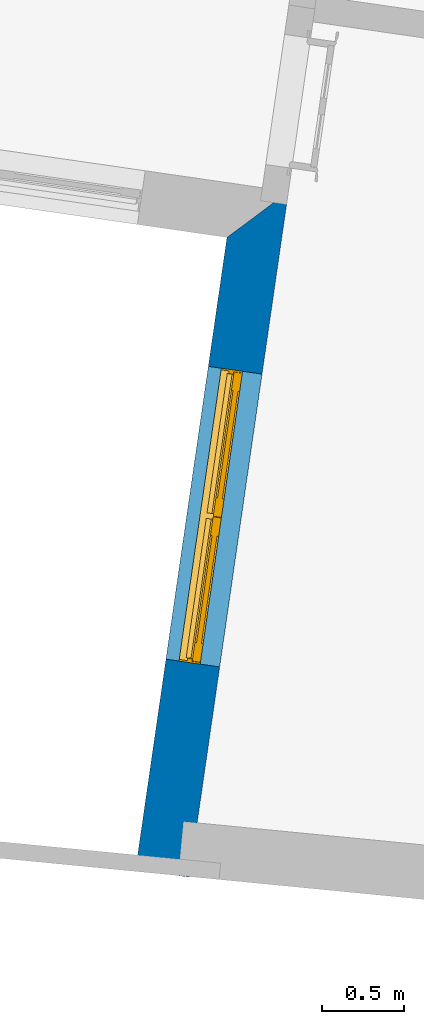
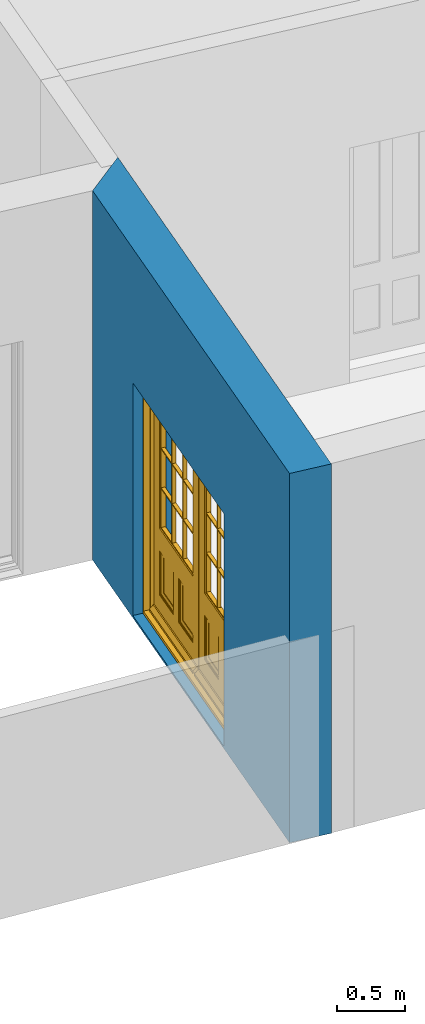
# One storey, part 2 of 7: 1 door, 1 wall, 1 opening.
"""IFC4 building model written with IfcOpenShell, lengths in metres."""

from ifc_helpers import new_model, si_unit, frame, origin, origin_with_axes, place, context, subcontext, project, spatial, polyline, outline, extrude, faceted_brep, source, transform, mapped, material, layer, layer_set, layer_usage, type_object, type_shapes, element, fill, save


model = new_model("IFC4")

# Units and contexts
model_context = context("Model", 3, world=origin_with_axes())
body_context = subcontext(model_context, "Body", "Model", "MODEL_VIEW")
ifc_project = project(units=[si_unit("PLANEANGLEUNIT", "RADIAN"), si_unit("MASSUNIT", "GRAM", prefix="KILO"), si_unit("FORCEUNIT", "NEWTON", prefix="KILO"), si_unit("LENGTHUNIT", "METRE"), si_unit("AREAUNIT", "SQUARE_METRE"), si_unit("VOLUMEUNIT", "CUBIC_METRE")], contexts=[model_context, model_context])

# Sites, building, storey
site_1_placement = place(None, origin_with_axes())
site_1 = spatial("IfcSite", under=ifc_project, at=site_1_placement, Name="Tamar")
site_2_placement = place(site_1_placement, origin_with_axes())
site_2 = spatial("IfcSite", under=site_1, at=site_2_placement, Name="Site plot-30", CompositionType="ELEMENT")
building_placement = place(None, origin_with_axes())
building = spatial("IfcBuilding", under=site_2, at=building_placement, Name="Building plot-30", CompositionType="ELEMENT")
storey_placement = place(None, frame((0.0, 0.0, 25.0), z_axis=(0.0, 0.0, 1.0), x_axis=(1.0, 0.0, 0.0)))
storey = spatial("IfcBuildingStorey", under=building, at=storey_placement, Name="plot-30 0", CompositionType="ELEMENT", Elevation=25.0)

# Wall, opening, door
ifc_material = material(Name="Masonry")
ifc_layer = layer(ifc_material, 0.33, ventilated=False)
ifc_layer_set = layer_set([ifc_layer], Name="exterior_0.08_0.25")
ifc_layer_usage = layer_usage(ifc_layer_set, "AXIS2", "POSITIVE", -0.25)
wall_type = type_object("IfcWallType", Name="exterior_0.08_0.25", PredefinedType="SOLIDWALL", material=ifc_layer_set)
wall_placement = place(storey_placement, frame((285.8320296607, 259.689161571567, 0.0), z_axis=(0.0, 0.0, 1.0), x_axis=(-0.143119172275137, -0.9897054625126, 0.0)))
wall = element("IfcWall", 1, at=wall_placement, inside=storey, type_object=wall_type, material=ifc_layer_usage, Name="exterior", context=body_context, shape_type="SweptSolid", body=[
    extrude(outline(polyline([(-0.0800000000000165, 0.0800000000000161), (0.250000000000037, -0.250000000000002), (4.13471951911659, -0.250000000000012), (4.1347195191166, 0.080000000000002), (-0.0800000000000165, 0.0800000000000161)])), origin_with_axes(), (0.0, 0.0, 1.0), 3.3),
])
opening_placement = place(wall_placement, frame((1.04235975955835, 0.0, 0.0199999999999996)))
opening = element("IfcOpeningElement", 2, at=opening_placement, cuts=wall, Name="My Opening", ObjectType="Opening", context=body_context, shape_type="SweptSolid", body=[
    extrude(outline(polyline([(0.0, -0.27000000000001), (1.79999999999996, -0.269999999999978), (1.79999999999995, 1.10000000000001), (-1.13242748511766e-14, 1.09999999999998), (0.0, -0.27000000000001)])), origin_with_axes(), (0.0, 0.0, 1.0), 2.08),
])
door_type = type_object("IfcDoorType", Name="door_panelled_double", OperationType="SINGLE_SWING_LEFT", PredefinedType="NOTDEFINED")
shared_shape = source(origin(), body_context, "Body", "Brep", [
    faceted_brep([(0.545, 0.195, 0.265), (0.745, 0.195, 0.265), (0.745, 0.2, 0.265), (0.545, 0.2, 0.265), (0.745, 0.2, 0.58), (0.545, 0.2, 0.58), (0.545, 0.195, 0.58), (0.515, 0.19, 0.235), (0.775, 0.19, 0.235), (0.745, 0.195, 0.58), (0.515, 0.19, 0.61), (0.515, 0.185, 0.235), (0.775, 0.185, 0.235), (0.775, 0.19, 0.61), (0.515, 0.185, 0.61), (0.785, 0.185, 0.225), (0.505, 0.185, 0.225), (0.775, 0.185, 0.61), (0.505, 0.185, 0.62), (0.785, 0.185, 0.62), (0.505, 0.18, 0.225), (0.785, 0.18, 0.225), (0.505, 0.18, 0.62), (0.785, 0.18, 0.62), (0.883, 0.18, 0.075), (0.898, 0.18, 0.075), (0.405, 0.18, 0.62), (0.405, 0.18, 0.225), (0.027, 0.18, 0.075), (0.785, 0.18, 0.82), (0.125, 0.18, 0.82), (0.405, 0.185, 0.62), (0.405, 0.185, 0.225), (0.898, 0.18, 2.068), (0.027, 0.17, 0.075), (0.883, 0.17, 0.075), (0.125, 0.18, 0.225), (0.012, 0.18, 0.075), (0.785, 0.19, 0.82), (0.125, 0.19, 0.82), (0.125, 0.18, 0.62), (0.125, 0.185, 0.62), (0.395, 0.185, 0.61), (0.395, 0.185, 0.235), (0.125, 0.185, 0.225), (0.785, 0.18, 1.895), (0.027, 0.14, 0.045), (0.883, 0.14, 0.045), (0.558333, 0.19, 0.83), (0.351667, 0.19, 0.83), (0.125, 0.18, 1.895), (0.125, 0.19, 1.895), (0.785, 0.19, 1.895), (0.012, 0.18, 2.068), (0.135, 0.185, 0.61), (0.395, 0.19, 0.61), (0.395, 0.19, 0.235), (0.135, 0.185, 0.235), (0.027, 0.14, 0.027), (0.883, 0.14, 0.027), (0.568333, 0.19, 0.83), (0.558333, 0.22, 0.83), (0.351667, 0.22, 0.83), (0.341667, 0.19, 0.83), (0.135, 0.19, 1.185), (0.135, 0.19, 1.53), (0.775, 0.19, 1.53), (0.775, 0.19, 1.185), (0.135, 0.19, 0.61), (0.365, 0.195, 0.58), (0.365, 0.195, 0.265), (0.135, 0.19, 0.235), (0.568333, 0.19, 1.175), (0.558333, 0.19, 1.175), (0.775, 0.19, 0.83), (0.558333, 0.22, 1.175), (0.785, 0.22, 0.82), (0.125, 0.22, 0.82), (0.351667, 0.22, 1.175), (0.351667, 0.19, 1.175), (0.341667, 0.19, 1.175), (0.135, 0.19, 0.83), (0.135, 0.19, 1.175), (0.135, 0.22, 1.185), (0.135, 0.22, 1.53), (0.135, 0.19, 1.54), (0.351667, 0.19, 1.885), (0.558333, 0.19, 1.885), (0.775, 0.22, 1.53), (0.775, 0.22, 1.185), (0.775, 0.19, 1.175), (0.775, 0.19, 1.54), (0.165, 0.195, 0.58), (0.365, 0.2, 0.58), (0.365, 0.2, 0.265), (0.165, 0.195, 0.265), (0.568333, 0.22, 0.83), (0.568333, 0.22, 1.175), (0.568333, 0.19, 1.185), (0.558333, 0.19, 1.185), (0.775, 0.22, 0.83), (0.785, 0.23, 0.82), (0.125, 0.23, 0.82), (0.341667, 0.22, 0.83), (0.341667, 0.22, 1.175), (0.351667, 0.19, 1.185), (0.341667, 0.19, 1.185), (0.135, 0.22, 0.83), (0.341667, 0.22, 1.185), (0.125, 0.22, 1.895), (0.341667, 0.22, 1.53), (0.341667, 0.19, 1.53), (0.135, 0.19, 1.885), (0.341667, 0.19, 1.54), (0.341667, 0.19, 1.885), (0.558333, 0.22, 1.885), (0.351667, 0.22, 1.885), (0.568333, 0.19, 1.885), (0.785, 0.22, 1.895), (0.568333, 0.22, 1.185), (0.568333, 0.19, 1.53), (0.568333, 0.22, 1.53), (0.568333, 0.19, 1.54), (0.775, 0.19, 1.885), (0.165, 0.2, 0.58), (0.165, 0.2, 0.265), (0.775, 0.22, 1.175), (0.558333, 0.19, 1.53), (0.351667, 0.22, 1.185), (0.558333, 0.22, 1.185), (0.505, 0.23, 0.62), (0.405, 0.23, 0.62), (0.125, 0.23, 1.895), (0.785, 0.23, 1.895), (0.351667, 0.19, 1.53), (0.135, 0.22, 1.175), (0.135, 0.22, 1.54), (0.341667, 0.22, 1.54), (0.135, 0.22, 1.885), (0.351667, 0.19, 1.54), (0.558333, 0.22, 1.54), (0.558333, 0.19, 1.54), (0.351667, 0.22, 1.54), (0.775, 0.22, 1.54), (0.568333, 0.22, 1.54), (0.775, 0.22, 1.885), (0.558333, 0.22, 1.53), (0.405, 0.23, 0.225), (0.505, 0.23, 0.225), (0.125, 0.23, 0.62), (0.785, 0.23, 0.62), (0.012, 0.23, 2.068), (0.898, 0.23, 2.068), (0.351667, 0.22, 1.53), (0.341667, 0.22, 1.885), (0.568333, 0.22, 1.885), (0.405, 0.225, 0.225), (0.405, 0.225, 0.62), (0.505, 0.225, 0.62), (0.505, 0.225, 0.225), (0.898, 0.23, 0.027), (0.012, 0.23, 0.027), (0.125, 0.225, 0.62), (0.785, 0.225, 0.62), (0.395, 0.225, 0.235), (0.395, 0.225, 0.61), (0.125, 0.23, 0.225), (0.125, 0.225, 0.225), (0.515, 0.225, 0.61), (0.515, 0.225, 0.235), (0.785, 0.23, 0.225), (0.785, 0.225, 0.225), (0.135, 0.225, 0.61), (0.775, 0.225, 0.61), (0.135, 0.225, 0.235), (0.395, 0.22, 0.235), (0.395, 0.22, 0.61), (0.515, 0.22, 0.61), (0.515, 0.22, 0.235), (0.775, 0.225, 0.235), (0.135, 0.22, 0.61), (0.775, 0.22, 0.61), (0.135, 0.22, 0.235), (0.365, 0.215, 0.265), (0.365, 0.215, 0.58), (0.545, 0.215, 0.58), (0.545, 0.215, 0.265), (0.775, 0.22, 0.235), (0.165, 0.215, 0.58), (0.745, 0.215, 0.58), (0.165, 0.215, 0.265), (0.365, 0.21, 0.58), (0.365, 0.21, 0.265), (0.545, 0.21, 0.58), (0.545, 0.21, 0.265), (0.745, 0.215, 0.265), (0.165, 0.21, 0.58), (0.745, 0.21, 0.58), (0.165, 0.21, 0.265), (0.745, 0.21, 0.265), (1.775, 0.178, 0.025), (0.025, 0.178, 0.025), (0.025, 0.15, 0.025), (1.775, 0.15, 0.025), (1.79, 0.23, 0.025), (0.01, 0.23, 0.025), (1.79, 0.178, 0.025), (1.8, 0.23, 0.0), (0.0, 0.23, 0.0), (0.01, 0.178, 0.025), (1.79, 0.178, 2.07), (1.79, 0.23, 2.07), (1.775, 0.178, 2.055), (1.8, 0.23, 2.08), (0.01, 0.23, 2.07), (0.0, 0.23, 2.08), (0.01, 0.178, 2.07), (0.025, 0.178, 2.055), (0.0, 0.1, 2.08), (1.8, 0.1, 2.08), (0.01, 0.1, 2.07), (1.79, 0.1, 2.07), (0.01, 0.15, 2.07), (1.79, 0.15, 2.07), (0.0, 0.1, 0.0), (1.8, 0.1, 0.0), (0.01, 0.1, 0.025), (1.79, 0.1, 0.025), (0.01, 0.15, 0.025), (0.025, 0.15, 2.055), (1.79, 0.15, 0.025), (1.775, 0.15, 2.055), (0.898, 0.18, 0.027), (0.012, 0.18, 0.027), (0.883, 0.18, 0.027), (0.027, 0.18, 0.027), (1.435, 0.195, 0.265), (1.635, 0.195, 0.265), (1.635, 0.2, 0.265), (1.435, 0.2, 0.265), (1.635, 0.2, 0.58), (1.435, 0.2, 0.58), (1.435, 0.195, 0.58), (1.405, 0.19, 0.235), (1.665, 0.19, 0.235), (1.635, 0.195, 0.58), (1.405, 0.19, 0.61), (1.405, 0.185, 0.235), (1.665, 0.185, 0.235), (1.665, 0.19, 0.61), (1.405, 0.185, 0.61), (1.675, 0.185, 0.225), (1.395, 0.185, 0.225), (1.665, 0.185, 0.61), (1.395, 0.185, 0.62), (1.675, 0.185, 0.62), (1.395, 0.18, 0.225), (1.675, 0.18, 0.225), (1.395, 0.18, 0.62), (1.675, 0.18, 0.62), (1.773, 0.18, 0.075), (1.788, 0.18, 0.075), (1.295, 0.18, 0.62), (1.295, 0.18, 0.225), (0.917, 0.18, 0.075), (1.675, 0.18, 0.82), (1.015, 0.18, 0.82), (1.295, 0.185, 0.62), (1.295, 0.185, 0.225), (1.788, 0.18, 2.068), (0.917, 0.17, 0.075), (1.773, 0.17, 0.075), (1.015, 0.18, 0.225), (0.902, 0.18, 0.075), (1.675, 0.19, 0.82), (1.015, 0.19, 0.82), (1.015, 0.18, 0.62), (1.015, 0.185, 0.62), (1.285, 0.185, 0.61), (1.285, 0.185, 0.235), (1.015, 0.185, 0.225), (1.675, 0.18, 1.895), (0.917, 0.14, 0.045), (1.773, 0.14, 0.045), (1.448333, 0.19, 0.83), (1.241667, 0.19, 0.83), (1.015, 0.18, 1.895), (1.015, 0.19, 1.895), (1.675, 0.19, 1.895), (0.902, 0.18, 2.068), (1.025, 0.185, 0.61), (1.285, 0.19, 0.61), (1.285, 0.19, 0.235), (1.025, 0.185, 0.235), (0.917, 0.14, 0.027), (1.773, 0.14, 0.027), (1.458333, 0.19, 0.83), (1.448333, 0.22, 0.83), (1.241667, 0.22, 0.83), (1.231667, 0.19, 0.83), (1.025, 0.19, 1.185), (1.025, 0.19, 1.53), (1.665, 0.19, 1.53), (1.665, 0.19, 1.185), (1.025, 0.19, 0.61), (1.255, 0.195, 0.58), (1.255, 0.195, 0.265), (1.025, 0.19, 0.235), (1.458333, 0.19, 1.175), (1.448333, 0.19, 1.175), (1.665, 0.19, 0.83), (1.448333, 0.22, 1.175), (1.675, 0.22, 0.82), (1.015, 0.22, 0.82), (1.241667, 0.22, 1.175), (1.241667, 0.19, 1.175), (1.231667, 0.19, 1.175), (1.025, 0.19, 0.83), (1.025, 0.19, 1.175), (1.025, 0.22, 1.185), (1.025, 0.22, 1.53), (1.025, 0.19, 1.54), (1.241667, 0.19, 1.885), (1.448333, 0.19, 1.885), (1.665, 0.22, 1.53), (1.665, 0.22, 1.185), (1.665, 0.19, 1.175), (1.665, 0.19, 1.54), (1.055, 0.195, 0.58), (1.255, 0.2, 0.58), (1.255, 0.2, 0.265), (1.055, 0.195, 0.265), (1.458333, 0.22, 0.83), (1.458333, 0.22, 1.175), (1.458333, 0.19, 1.185), (1.448333, 0.19, 1.185), (1.665, 0.22, 0.83), (1.675, 0.23, 0.82), (1.015, 0.23, 0.82), (1.231667, 0.22, 0.83), (1.231667, 0.22, 1.175), (1.241667, 0.19, 1.185), (1.231667, 0.19, 1.185), (1.025, 0.22, 0.83), (1.231667, 0.22, 1.185), (1.015, 0.22, 1.895), (1.231667, 0.22, 1.53), (1.231667, 0.19, 1.53), (1.025, 0.19, 1.885), (1.231667, 0.19, 1.54), (1.231667, 0.19, 1.885), (1.448333, 0.22, 1.885), (1.241667, 0.22, 1.885), (1.458333, 0.19, 1.885), (1.675, 0.22, 1.895), (1.458333, 0.22, 1.185), (1.458333, 0.19, 1.53), (1.458333, 0.22, 1.53), (1.458333, 0.19, 1.54), (1.665, 0.19, 1.885), (1.055, 0.2, 0.58), (1.055, 0.2, 0.265), (1.665, 0.22, 1.175), (1.448333, 0.19, 1.53), (1.241667, 0.22, 1.185), (1.448333, 0.22, 1.185), (1.395, 0.23, 0.62), (1.295, 0.23, 0.62), (1.015, 0.23, 1.895), (1.675, 0.23, 1.895), (1.241667, 0.19, 1.53), (1.025, 0.22, 1.175), (1.025, 0.22, 1.54), (1.231667, 0.22, 1.54), (1.025, 0.22, 1.885), (1.241667, 0.19, 1.54), (1.448333, 0.22, 1.54), (1.448333, 0.19, 1.54), (1.241667, 0.22, 1.54), (1.665, 0.22, 1.54), (1.458333, 0.22, 1.54), (1.665, 0.22, 1.885), (1.448333, 0.22, 1.53), (1.295, 0.23, 0.225), (1.395, 0.23, 0.225), (1.015, 0.23, 0.62), (1.675, 0.23, 0.62), (0.902, 0.23, 2.068), (1.788, 0.23, 2.068), (1.241667, 0.22, 1.53), (1.231667, 0.22, 1.885), (1.458333, 0.22, 1.885), (1.295, 0.225, 0.225), (1.295, 0.225, 0.62), (1.395, 0.225, 0.62), (1.395, 0.225, 0.225), (1.788, 0.23, 0.027), (0.902, 0.23, 0.027), (1.015, 0.225, 0.62), (1.675, 0.225, 0.62), (1.285, 0.225, 0.235), (1.285, 0.225, 0.61), (1.015, 0.23, 0.225), (1.015, 0.225, 0.225), (1.405, 0.225, 0.61), (1.405, 0.225, 0.235), (1.675, 0.23, 0.225), (1.675, 0.225, 0.225), (1.025, 0.225, 0.61), (1.665, 0.225, 0.61), (1.025, 0.225, 0.235), (1.285, 0.22, 0.235), (1.285, 0.22, 0.61), (1.405, 0.22, 0.61), (1.405, 0.22, 0.235), (1.665, 0.225, 0.235), (1.025, 0.22, 0.61), (1.665, 0.22, 0.61), (1.025, 0.22, 0.235), (1.255, 0.215, 0.265), (1.255, 0.215, 0.58), (1.435, 0.215, 0.58), (1.435, 0.215, 0.265), (1.665, 0.22, 0.235), (1.055, 0.215, 0.58), (1.635, 0.215, 0.58), (1.055, 0.215, 0.265), (1.255, 0.21, 0.58), (1.255, 0.21, 0.265), (1.435, 0.21, 0.58), (1.435, 0.21, 0.265), (1.635, 0.215, 0.265), (1.055, 0.21, 0.58), (1.635, 0.21, 0.58), (1.055, 0.21, 0.265), (1.635, 0.21, 0.265), (1.788, 0.18, 0.027), (0.902, 0.18, 0.027), (1.773, 0.18, 0.027), (0.917, 0.18, 0.027)], [[[0, 1, 2, 3]], [[2, 4, 5, 3]], [[0, 3, 5, 6]], [[1, 0, 7, 8]], [[9, 4, 2, 1]], [[9, 6, 5, 4]], [[0, 6, 10, 7]], [[8, 7, 11, 12]], [[8, 13, 9, 1]], [[13, 10, 6, 9]], [[7, 10, 14, 11]], [[15, 12, 11, 16]], [[12, 17, 13, 8]], [[17, 14, 10, 13]], [[18, 16, 11, 14]], [[15, 19, 17, 12]], [[15, 16, 20, 21]], [[14, 17, 19, 18]], [[16, 18, 22, 20]], [[21, 23, 19, 15]], [[24, 25, 21, 20]], [[23, 22, 18, 19]], [[20, 22, 26, 27]], [[23, 21, 25]], [[28, 24, 20, 27]], [[22, 23, 29]], [[29, 30, 26, 22]], [[27, 26, 31, 32]], [[23, 25, 33, 29]], [[34, 35, 24, 28]], [[28, 27, 36, 37]], [[38, 39, 30, 29]], [[26, 30, 40]], [[26, 40, 41, 31]], [[42, 43, 32, 31]], [[32, 44, 36, 27]], [[33, 45, 29]], [[46, 47, 35, 34]], [[36, 40, 37]], [[39, 38, 48, 49]], [[50, 30, 39, 51]], [[29, 45, 52, 38]], [[53, 37, 40, 30]], [[44, 41, 40, 36]], [[31, 41, 54, 42]], [[43, 42, 55, 56]], [[57, 44, 32, 43]], [[50, 45, 33, 53]], [[47, 46, 58, 59]], [[60, 48, 38]], [[49, 48, 61, 62]], [[49, 63, 39]], [[50, 53, 30]], [[51, 39, 64, 65]], [[45, 50, 51, 52]], [[66, 67, 38, 52]], [[57, 54, 41, 44]], [[42, 54, 68, 55]], [[56, 55, 69, 70]], [[56, 71, 57, 43]], [[60, 72, 73, 48]], [[60, 38, 74]], [[48, 73, 75, 61]], [[76, 77, 62, 61]], [[62, 78, 79, 49]], [[49, 79, 80, 63]], [[63, 81, 39]], [[82, 64, 39]], [[65, 64, 83, 84]], [[85, 51, 65]], [[52, 51, 86, 87]], [[88, 89, 67, 66]], [[90, 38, 67]], [[91, 66, 52]], [[71, 68, 54, 57]], [[55, 68, 92, 69]], [[69, 93, 94, 70]], [[70, 95, 71, 56]], [[96, 97, 72, 60]], [[73, 72, 98, 99]], [[74, 38, 90]], [[100, 96, 60, 74]], [[75, 73, 79, 78]], [[61, 75, 97, 96]], [[101, 102, 77, 76]], [[77, 103, 62]], [[96, 76, 61]], [[103, 104, 78, 62]], [[80, 79, 105, 106]], [[63, 80, 104, 103]], [[81, 63, 103, 107]], [[81, 82, 39]], [[106, 64, 82, 80]], [[106, 108, 83, 64]], [[84, 83, 77, 109]], [[110, 111, 65, 84]], [[112, 51, 85]], [[113, 85, 65, 111]], [[114, 86, 51]], [[115, 87, 86, 116]], [[117, 52, 87]], [[118, 76, 89, 88]], [[119, 98, 67, 89]], [[120, 121, 88, 66]], [[67, 98, 72, 90]], [[91, 122, 120, 66]], [[91, 52, 123]], [[95, 92, 68, 71]], [[69, 92, 124, 93]], [[94, 93, 124, 125]], [[94, 125, 95, 70]], [[72, 97, 126, 90]], [[127, 99, 98, 120]], [[99, 105, 79, 73]], [[74, 90, 126, 100]], [[96, 100, 76]], [[128, 129, 75, 78]], [[97, 75, 129, 119]], [[130, 131, 102, 101]], [[109, 77, 102, 132]], [[133, 101, 76, 118]], [[77, 107, 103]], [[78, 104, 108, 128]], [[111, 106, 105, 134]], [[104, 80, 82, 135]], [[107, 135, 82, 81]], [[110, 108, 106, 111]], [[104, 135, 83, 108]], [[83, 135, 77]], [[136, 84, 109]], [[110, 84, 136, 137]], [[114, 51, 112]], [[85, 136, 138, 112]], [[113, 137, 136, 85]], [[111, 134, 139, 113]], [[86, 114, 113, 139]], [[140, 141, 87, 115]], [[139, 142, 116, 86]], [[109, 118, 115, 116]], [[117, 123, 52]], [[117, 87, 141, 122]], [[126, 89, 76]], [[143, 118, 88]], [[120, 98, 119, 121]], [[119, 89, 126, 97]], [[144, 143, 88, 121]], [[144, 122, 91, 143]], [[127, 120, 122, 141]], [[143, 91, 123, 145]], [[124, 92, 95, 125]], [[146, 129, 99, 127]], [[99, 129, 128, 105]], [[100, 126, 76]], [[121, 119, 129, 146]], [[147, 131, 130, 148]], [[131, 149, 102]], [[130, 101, 150]], [[102, 151, 132]], [[118, 109, 132, 133]], [[101, 133, 152]], [[107, 77, 135]], [[153, 128, 108, 110]], [[134, 105, 128, 153]], [[109, 138, 136]], [[153, 110, 137, 142]], [[154, 114, 112, 138]], [[137, 113, 114, 154]], [[141, 139, 134, 127]], [[141, 140, 142, 139]], [[144, 140, 115, 155]], [[142, 137, 154, 116]], [[155, 115, 118]], [[116, 154, 109]], [[117, 155, 145, 123]], [[122, 144, 155, 117]], [[143, 145, 118]], [[121, 146, 140, 144]], [[146, 127, 134, 153]], [[156, 157, 131, 147]], [[148, 130, 158, 159]], [[148, 160, 161, 147]], [[157, 162, 149, 131]], [[161, 151, 102, 149]], [[101, 152, 160, 150]], [[163, 158, 130, 150]], [[151, 152, 133, 132]], [[154, 138, 109]], [[142, 140, 146, 153]], [[145, 155, 118]], [[157, 156, 164, 165]], [[147, 166, 167, 156]], [[168, 169, 159, 158]], [[170, 148, 159, 171]], [[148, 170, 160]], [[166, 147, 161]], [[172, 162, 157, 165]], [[166, 149, 162, 167]], [[166, 161, 149]], [[150, 160, 170]], [[163, 173, 168, 158]], [[171, 163, 150, 170]], [[174, 164, 156, 167]], [[175, 176, 165, 164]], [[169, 168, 177, 178]], [[171, 159, 169, 179]], [[167, 162, 172, 174]], [[176, 180, 172, 165]], [[179, 173, 163, 171]], [[181, 177, 168, 173]], [[164, 174, 182, 175]], [[183, 184, 176, 175]], [[178, 177, 185, 186]], [[179, 169, 178, 187]], [[174, 172, 180, 182]], [[184, 188, 180, 176]], [[187, 181, 173, 179]], [[189, 185, 177, 181]], [[175, 182, 190, 183]], [[191, 184, 183, 192]], [[185, 193, 194, 186]], [[187, 178, 186, 195]], [[182, 180, 188, 190]], [[191, 196, 188, 184]], [[195, 189, 181, 187]], [[197, 193, 185, 189]], [[183, 190, 198, 192]], [[198, 196, 191, 192]], [[194, 193, 197, 199]], [[195, 186, 194, 199]], [[188, 196, 198, 190]], [[197, 189, 195, 199]], [[200, 201, 202, 203]], [[201, 200, 204, 205]], [[206, 204, 200]], [[204, 207, 208, 205]], [[209, 201, 205]], [[210, 211, 204, 206]], [[206, 200, 212, 210]], [[211, 213, 207, 204]], [[214, 205, 208, 215]], [[216, 217, 201, 209]], [[205, 214, 216, 209]], [[216, 214, 211, 210]], [[210, 212, 217, 216]], [[214, 215, 213, 211]], [[218, 219, 213, 215]], [[219, 218, 220, 221]], [[221, 220, 222, 223]], [[215, 208, 224, 218]], [[225, 224, 208, 207]], [[224, 226, 220, 218]], [[224, 225, 227, 226]], [[219, 225, 207, 213]], [[228, 222, 220, 226]], [[219, 221, 227, 225]], [[226, 227, 203, 202]], [[202, 229, 222, 228]], [[228, 226, 202]], [[227, 221, 223, 230]], [[230, 203, 227]], [[217, 229, 202, 201]], [[231, 223, 222, 229]], [[230, 223, 231, 203]], [[231, 229, 217, 212]], [[212, 200, 203, 231]], [[33, 152, 151, 53]], [[25, 160, 152, 33]], [[161, 37, 53, 151]], [[232, 160, 25]], [[161, 233, 37]], [[160, 232, 234]], [[24, 234, 232, 25]], [[233, 161, 235]], [[37, 233, 235, 28]], [[161, 160, 234, 235]], [[35, 47, 234, 24]], [[28, 235, 46, 34]], [[58, 235, 234, 59]], [[59, 234, 47]], [[58, 46, 235]], [[236, 237, 238, 239]], [[238, 240, 241, 239]], [[236, 239, 241, 242]], [[237, 236, 243, 244]], [[245, 240, 238, 237]], [[245, 242, 241, 240]], [[236, 242, 246, 243]], [[244, 243, 247, 248]], [[244, 249, 245, 237]], [[249, 246, 242, 245]], [[243, 246, 250, 247]], [[251, 248, 247, 252]], [[248, 253, 249, 244]], [[253, 250, 246, 249]], [[254, 252, 247, 250]], [[251, 255, 253, 248]], [[251, 252, 256, 257]], [[250, 253, 255, 254]], [[252, 254, 258, 256]], [[257, 259, 255, 251]], [[260, 261, 257, 256]], [[259, 258, 254, 255]], [[256, 258, 262, 263]], [[259, 257, 261]], [[264, 260, 256, 263]], [[258, 259, 265]], [[265, 266, 262, 258]], [[263, 262, 267, 268]], [[259, 261, 269, 265]], [[270, 271, 260, 264]], [[264, 263, 272, 273]], [[274, 275, 266, 265]], [[262, 266, 276]], [[262, 276, 277, 267]], [[278, 279, 268, 267]], [[268, 280, 272, 263]], [[269, 281, 265]], [[282, 283, 271, 270]], [[272, 276, 273]], [[275, 274, 284, 285]], [[286, 266, 275, 287]], [[265, 281, 288, 274]], [[289, 273, 276, 266]], [[280, 277, 276, 272]], [[267, 277, 290, 278]], [[279, 278, 291, 292]], [[293, 280, 268, 279]], [[286, 281, 269, 289]], [[283, 282, 294, 295]], [[296, 284, 274]], [[285, 284, 297, 298]], [[285, 299, 275]], [[286, 289, 266]], [[287, 275, 300, 301]], [[281, 286, 287, 288]], [[302, 303, 274, 288]], [[293, 290, 277, 280]], [[278, 290, 304, 291]], [[292, 291, 305, 306]], [[292, 307, 293, 279]], [[296, 308, 309, 284]], [[296, 274, 310]], [[284, 309, 311, 297]], [[312, 313, 298, 297]], [[298, 314, 315, 285]], [[285, 315, 316, 299]], [[299, 317, 275]], [[318, 300, 275]], [[301, 300, 319, 320]], [[321, 287, 301]], [[288, 287, 322, 323]], [[324, 325, 303, 302]], [[326, 274, 303]], [[327, 302, 288]], [[307, 304, 290, 293]], [[291, 304, 328, 305]], [[305, 329, 330, 306]], [[306, 331, 307, 292]], [[332, 333, 308, 296]], [[309, 308, 334, 335]], [[310, 274, 326]], [[336, 332, 296, 310]], [[311, 309, 315, 314]], [[297, 311, 333, 332]], [[337, 338, 313, 312]], [[313, 339, 298]], [[332, 312, 297]], [[339, 340, 314, 298]], [[316, 315, 341, 342]], [[299, 316, 340, 339]], [[317, 299, 339, 343]], [[317, 318, 275]], [[342, 300, 318, 316]], [[342, 344, 319, 300]], [[320, 319, 313, 345]], [[346, 347, 301, 320]], [[348, 287, 321]], [[349, 321, 301, 347]], [[350, 322, 287]], [[351, 323, 322, 352]], [[353, 288, 323]], [[354, 312, 325, 324]], [[355, 334, 303, 325]], [[356, 357, 324, 302]], [[303, 334, 308, 326]], [[327, 358, 356, 302]], [[327, 288, 359]], [[331, 328, 304, 307]], [[305, 328, 360, 329]], [[330, 329, 360, 361]], [[330, 361, 331, 306]], [[308, 333, 362, 326]], [[363, 335, 334, 356]], [[335, 341, 315, 309]], [[310, 326, 362, 336]], [[332, 336, 312]], [[364, 365, 311, 314]], [[333, 311, 365, 355]], [[366, 367, 338, 337]], [[345, 313, 338, 368]], [[369, 337, 312, 354]], [[313, 343, 339]], [[314, 340, 344, 364]], [[347, 342, 341, 370]], [[340, 316, 318, 371]], [[343, 371, 318, 317]], [[346, 344, 342, 347]], [[340, 371, 319, 344]], [[319, 371, 313]], [[372, 320, 345]], [[346, 320, 372, 373]], [[350, 287, 348]], [[321, 372, 374, 348]], [[349, 373, 372, 321]], [[347, 370, 375, 349]], [[322, 350, 349, 375]], [[376, 377, 323, 351]], [[375, 378, 352, 322]], [[345, 354, 351, 352]], [[353, 359, 288]], [[353, 323, 377, 358]], [[362, 325, 312]], [[379, 354, 324]], [[356, 334, 355, 357]], [[355, 325, 362, 333]], [[380, 379, 324, 357]], [[380, 358, 327, 379]], [[363, 356, 358, 377]], [[379, 327, 359, 381]], [[360, 328, 331, 361]], [[382, 365, 335, 363]], [[335, 365, 364, 341]], [[336, 362, 312]], [[357, 355, 365, 382]], [[383, 367, 366, 384]], [[367, 385, 338]], [[366, 337, 386]], [[338, 387, 368]], [[354, 345, 368, 369]], [[337, 369, 388]], [[343, 313, 371]], [[389, 364, 344, 346]], [[370, 341, 364, 389]], [[345, 374, 372]], [[389, 346, 373, 378]], [[390, 350, 348, 374]], [[373, 349, 350, 390]], [[377, 375, 370, 363]], [[377, 376, 378, 375]], [[380, 376, 351, 391]], [[378, 373, 390, 352]], [[391, 351, 354]], [[352, 390, 345]], [[353, 391, 381, 359]], [[358, 380, 391, 353]], [[379, 381, 354]], [[357, 382, 376, 380]], [[382, 363, 370, 389]], [[392, 393, 367, 383]], [[384, 366, 394, 395]], [[384, 396, 397, 383]], [[393, 398, 385, 367]], [[397, 387, 338, 385]], [[337, 388, 396, 386]], [[399, 394, 366, 386]], [[387, 388, 369, 368]], [[390, 374, 345]], [[378, 376, 382, 389]], [[381, 391, 354]], [[393, 392, 400, 401]], [[383, 402, 403, 392]], [[404, 405, 395, 394]], [[406, 384, 395, 407]], [[384, 406, 396]], [[402, 383, 397]], [[408, 398, 393, 401]], [[402, 385, 398, 403]], [[402, 397, 385]], [[386, 396, 406]], [[399, 409, 404, 394]], [[407, 399, 386, 406]], [[410, 400, 392, 403]], [[411, 412, 401, 400]], [[405, 404, 413, 414]], [[407, 395, 405, 415]], [[403, 398, 408, 410]], [[412, 416, 408, 401]], [[415, 409, 399, 407]], [[417, 413, 404, 409]], [[400, 410, 418, 411]], [[419, 420, 412, 411]], [[414, 413, 421, 422]], [[415, 405, 414, 423]], [[410, 408, 416, 418]], [[420, 424, 416, 412]], [[423, 417, 409, 415]], [[425, 421, 413, 417]], [[411, 418, 426, 419]], [[427, 420, 419, 428]], [[421, 429, 430, 422]], [[423, 414, 422, 431]], [[418, 416, 424, 426]], [[427, 432, 424, 420]], [[431, 425, 417, 423]], [[433, 429, 421, 425]], [[419, 426, 434, 428]], [[434, 432, 427, 428]], [[430, 429, 433, 435]], [[431, 422, 430, 435]], [[424, 432, 434, 426]], [[433, 425, 431, 435]], [[269, 388, 387, 289]], [[261, 396, 388, 269]], [[397, 273, 289, 387]], [[436, 396, 261]], [[397, 437, 273]], [[396, 436, 438]], [[260, 438, 436, 261]], [[437, 397, 439]], [[273, 437, 439, 264]], [[397, 396, 438, 439]], [[271, 283, 438, 260]], [[264, 439, 282, 270]], [[294, 439, 438, 295]], [[295, 438, 283]], [[294, 282, 439]]]),
])
type_shapes(door_type, [shared_shape])
door_placement = place(storey_placement, frame((285.415627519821, 258.696174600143, 0.0199999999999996), z_axis=(0.0, 0.0, 1.0), x_axis=(-0.257614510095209, -1.78146983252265, 0.0)))
door = element("IfcDoor", 3, at=door_placement, inside=storey, type_object=door_type, Name="living outside door", OverallHeight=2.08, OverallWidth=1.8, context=body_context, shape_type="MappedRepresentation", body=[
    mapped(shared_shape, transform((0.0, 0.0, 0.0), scale=1.0)),
])
fill(opening, door)

save(model, "model.ifc")
